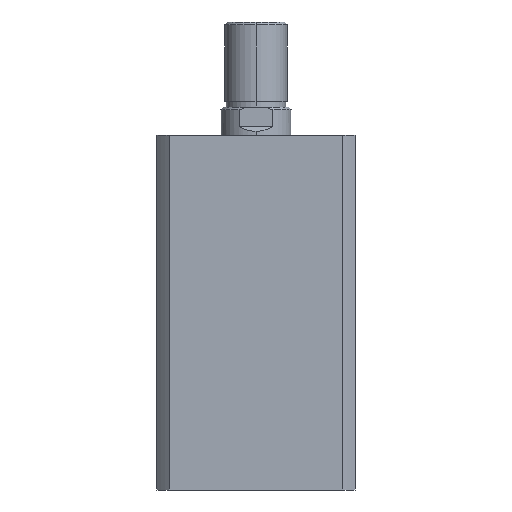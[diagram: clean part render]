
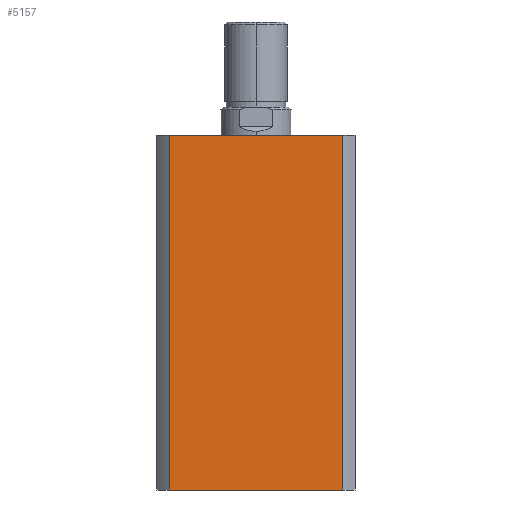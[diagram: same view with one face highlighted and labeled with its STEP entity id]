
A CAD part, left-side view. The second image highlights one B-rep face of the part: STEP entity #5157.
In plain terms, the highlighted planar face has unit normal (-1, 0, 0).
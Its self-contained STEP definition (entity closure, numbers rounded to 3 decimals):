
#315 = FACE_OUTER_BOUND ( 'NONE', #1347, .T. ) ;
#781 = EDGE_CURVE ( 'NONE', #3715, #3747, #1708, .T. ) ;
#782 = EDGE_CURVE ( 'NONE', #3746, #3747, #1713, .T. ) ;
#783 = EDGE_CURVE ( 'NONE', #3714, #3746, #1712, .T. ) ;
#812 = EDGE_CURVE ( 'NONE', #3714, #3715, #1755, .T. ) ;
#1124 = AXIS2_PLACEMENT_3D ( 'NONE', #2365, #2397, #2398 ) ;
#1347 = EDGE_LOOP ( 'NONE', ( #3127, #3128, #3129, #3130 ) ) ;
#1708 = LINE ( 'NONE', #2089, #1714 ) ;
#1712 = LINE ( 'NONE', #2088, #1718 ) ;
#1713 = LINE ( 'NONE', #2093, #1716 ) ;
#1714 = VECTOR ( 'NONE', #2085, 1000. ) ;
#1716 = VECTOR ( 'NONE', #2095, 1000. ) ;
#1718 = VECTOR ( 'NONE', #2096, 1000. ) ;
#1755 = LINE ( 'NONE', #2205, #1757 ) ;
#1757 = VECTOR ( 'NONE', #2204, 1000. ) ;
#2085 = DIRECTION ( 'NONE',  ( 0., 0., -1. ) ) ;
#2088 = CARTESIAN_POINT ( 'NONE',  ( -35., 30.615, 125. ) ) ;
#2089 = CARTESIAN_POINT ( 'NONE',  ( -35., -30.615, 125. ) ) ;
#2093 = CARTESIAN_POINT ( 'NONE',  ( -35., 0., 0. ) ) ;
#2095 = DIRECTION ( 'NONE',  ( 0., -1., 0. ) ) ;
#2096 = DIRECTION ( 'NONE',  ( 0., 0., -1. ) ) ;
#2204 = DIRECTION ( 'NONE',  ( 0., -1., 0. ) ) ;
#2205 = CARTESIAN_POINT ( 'NONE',  ( -35., 0., 125. ) ) ;
#2365 = CARTESIAN_POINT ( 'NONE',  ( -35., 0., 125. ) ) ;
#2366 = PLANE ( 'NONE',  #1124 ) ;
#2397 = DIRECTION ( 'NONE',  ( 1., 0., 0. ) ) ;
#2398 = DIRECTION ( 'NONE',  ( 0., 1., 0. ) ) ;
#3127 = ORIENTED_EDGE ( 'NONE', *, *, #782, .T. ) ;
#3128 = ORIENTED_EDGE ( 'NONE', *, *, #781, .F. ) ;
#3129 = ORIENTED_EDGE ( 'NONE', *, *, #812, .F. ) ;
#3130 = ORIENTED_EDGE ( 'NONE', *, *, #783, .T. ) ;
#3714 = VERTEX_POINT ( 'NONE', #3935 ) ;
#3715 = VERTEX_POINT ( 'NONE', #3936 ) ;
#3746 = VERTEX_POINT ( 'NONE', #3967 ) ;
#3747 = VERTEX_POINT ( 'NONE', #3968 ) ;
#3935 = CARTESIAN_POINT ( 'NONE',  ( -35., 30.615, 125. ) ) ;
#3936 = CARTESIAN_POINT ( 'NONE',  ( -35., -30.615, 125. ) ) ;
#3967 = CARTESIAN_POINT ( 'NONE',  ( -35., 30.615, 0. ) ) ;
#3968 = CARTESIAN_POINT ( 'NONE',  ( -35., -30.615, 0. ) ) ;
#5157 = ADVANCED_FACE ( 'NONE', ( #315 ), #2366, .F. ) ;
